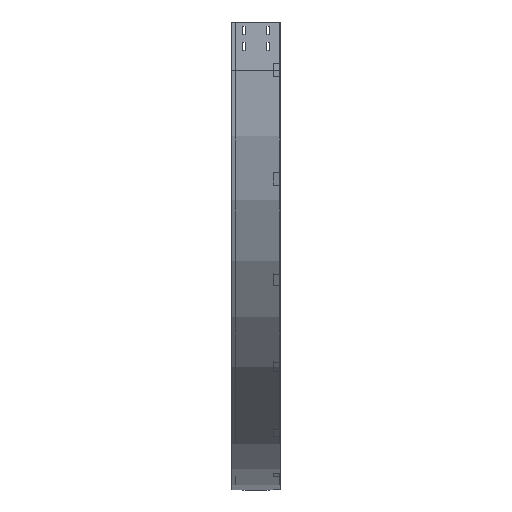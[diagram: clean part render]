
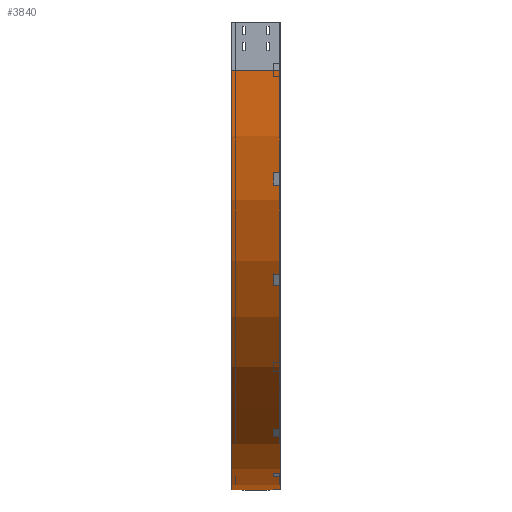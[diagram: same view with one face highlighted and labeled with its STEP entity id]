
A CAD part, left-side view. The second image highlights one B-rep face of the part: STEP entity #3840.
In plain terms, the highlighted cylindrical face has radius 1300 mm (diameter 2600 mm), a partial arc.
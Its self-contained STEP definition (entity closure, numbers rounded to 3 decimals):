
#9 = LINE ( 'NONE', #2700, #2984 ) ;
#144 = ORIENTED_EDGE ( 'NONE', *, *, #3171, .T. ) ;
#236 = VERTEX_POINT ( 'NONE', #3405 ) ;
#460 = ORIENTED_EDGE ( 'NONE', *, *, #1392, .F. ) ;
#612 = EDGE_CURVE ( 'NONE', #236, #1908, #3379, .T. ) ;
#684 = VERTEX_POINT ( 'NONE', #3110 ) ;
#737 = DIRECTION ( 'NONE',  ( 0., -1., 0. ) ) ;
#971 = ORIENTED_EDGE ( 'NONE', *, *, #3371, .T. ) ;
#999 = CARTESIAN_POINT ( 'NONE',  ( 1300., 150., -1450. ) ) ;
#1076 = DIRECTION ( 'NONE',  ( -1., 0., 0. ) ) ;
#1150 = DIRECTION ( 'NONE',  ( 0., -1., 0. ) ) ;
#1206 = DIRECTION ( 'NONE',  ( 0., -1., 0. ) ) ;
#1305 = DIRECTION ( 'NONE',  ( 0., -1., 0. ) ) ;
#1392 = EDGE_CURVE ( 'NONE', #684, #236, #9, .T. ) ;
#1443 = LINE ( 'NONE', #3786, #1952 ) ;
#1507 = CIRCLE ( 'NONE', #3774, 1300. ) ;
#1685 = DIRECTION ( 'NONE',  ( 0., -1., 0. ) ) ;
#1803 = AXIS2_PLACEMENT_3D ( 'NONE', #3768, #1685, #1076 ) ;
#1908 = VERTEX_POINT ( 'NONE', #3497 ) ;
#1916 = DIRECTION ( 'NONE',  ( 0., 0., -1. ) ) ;
#1952 = VECTOR ( 'NONE', #1150, 1000. ) ;
#2236 = CYLINDRICAL_SURFACE ( 'NONE', #2798, 1300. ) ;
#2551 = DIRECTION ( 'NONE',  ( -1., 0., 0. ) ) ;
#2700 = CARTESIAN_POINT ( 'NONE',  ( 0., 0., -150. ) ) ;
#2798 = AXIS2_PLACEMENT_3D ( 'NONE', #3455, #1305, #1916 ) ;
#2978 = EDGE_LOOP ( 'NONE', ( #3471, #460, #971, #144 ) ) ;
#2984 = VECTOR ( 'NONE', #1206, 1000. ) ;
#3110 = CARTESIAN_POINT ( 'NONE',  ( 0., 150., -150. ) ) ;
#3171 = EDGE_CURVE ( 'NONE', #3363, #1908, #1443, .T. ) ;
#3363 = VERTEX_POINT ( 'NONE', #999 ) ;
#3371 = EDGE_CURVE ( 'NONE', #684, #3363, #1507, .T. ) ;
#3377 = FACE_OUTER_BOUND ( 'NONE', #2978, .T. ) ;
#3379 = CIRCLE ( 'NONE', #1803, 1300. ) ;
#3405 = CARTESIAN_POINT ( 'NONE',  ( 0., 0., -150. ) ) ;
#3455 = CARTESIAN_POINT ( 'NONE',  ( 1300., 0., -150. ) ) ;
#3471 = ORIENTED_EDGE ( 'NONE', *, *, #612, .F. ) ;
#3497 = CARTESIAN_POINT ( 'NONE',  ( 1300., 0., -1450. ) ) ;
#3698 = CARTESIAN_POINT ( 'NONE',  ( 1300., 150., -150. ) ) ;
#3768 = CARTESIAN_POINT ( 'NONE',  ( 1300., 0., -150. ) ) ;
#3774 = AXIS2_PLACEMENT_3D ( 'NONE', #3698, #737, #2551 ) ;
#3786 = CARTESIAN_POINT ( 'NONE',  ( 1300., 0., -1450. ) ) ;
#3840 = ADVANCED_FACE ( 'NONE', ( #3377 ), #2236, .T. ) ;
